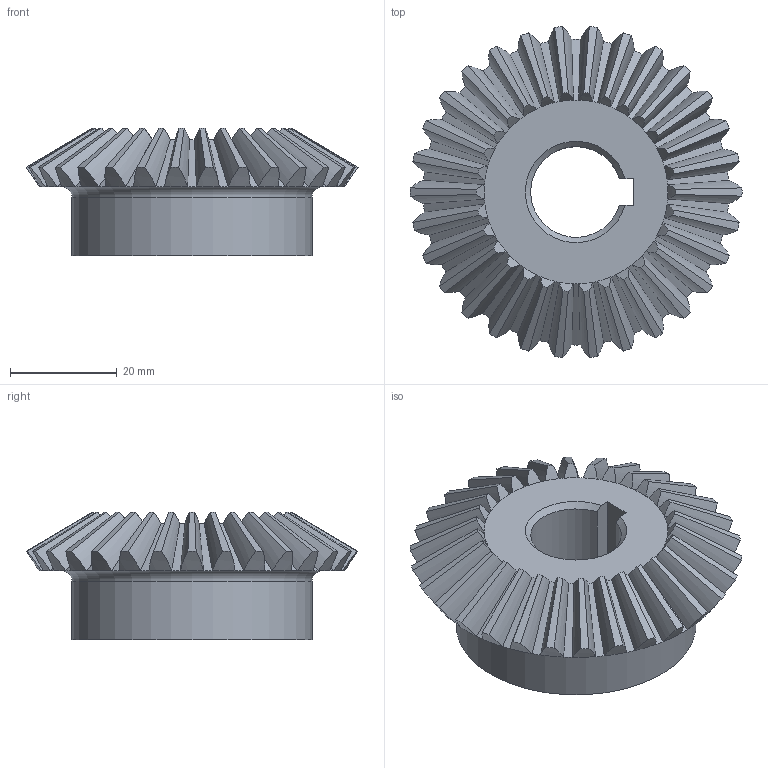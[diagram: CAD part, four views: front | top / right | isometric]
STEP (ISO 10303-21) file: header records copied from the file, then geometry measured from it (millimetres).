
FILE_DESCRIPTION(/* description */ (''),/* implementation_level */ '2;1');
FILE_NAME(/* name */ '',/* time_stamp */ '2025-04-29T13:42:34+09:00',/* author */ ('jhkim'),/* organization */ (''),/* preprocessor_version */ 'ST-DEVELOPER v20.1',/* originating_system */ 'Autodesk Inventor 2026',/* authorisation */ '');
FILE_SCHEMA (('AUTOMOTIVE_DESIGN { 1 0 10303 214 3 1 1 }'));
Length unit declared in the file: millimetre
Products named in the file (1): 메인 베벨기어
Bounding box: 62.22 x 62.02 x 23.98 mm (x, y, z)
Volume: 34298.8 mm3; surface area: 10884.1 mm2
Topology: 1 solids, 1 shells, 191 faces, 443 edges, 255 vertices
Faces by surface type: cone 122, bspline 60, plane 6, cylinder 2, torus 1
Full cylindrical faces by diameter (mm): 45 x1
Entity records: 7420 total; most frequent: CARTESIAN_POINT 3598, ORIENTED_EDGE 886, DIRECTION 651, EDGE_CURVE 443, AXIS2_PLACEMENT_3D 320, VERTEX_POINT 255, B_SPLINE_CURVE_WITH_KNOTS 240, EDGE_LOOP 194
